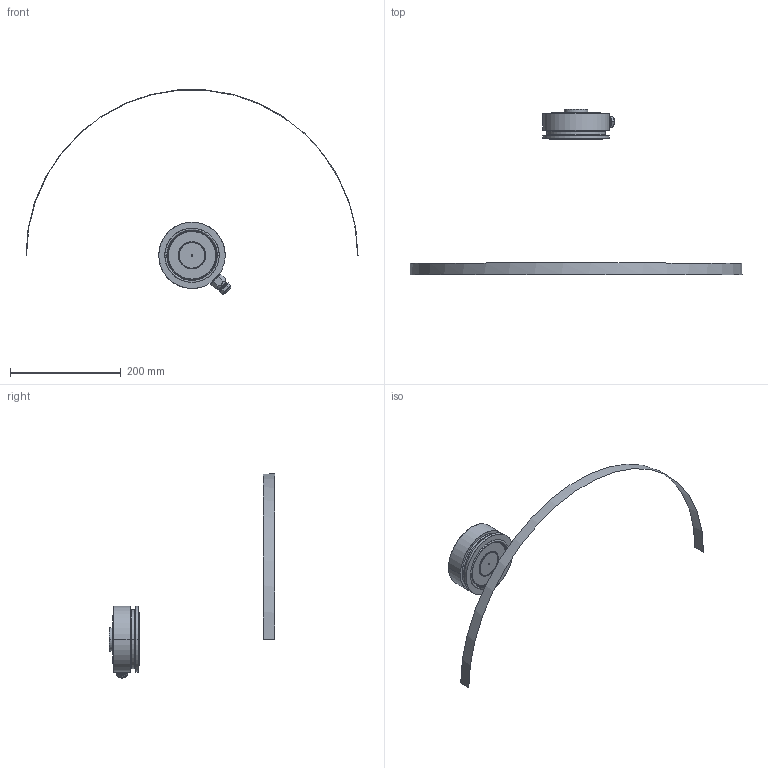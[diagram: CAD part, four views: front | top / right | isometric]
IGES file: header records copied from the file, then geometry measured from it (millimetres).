
Start section: SolidWorks IGES file using analytic representation for surfaces
Global section: file name: C:\0_Work\SolidWorks\HI HPLP Load Points\HI HP50 Load Sensor_44KLB-66KLB\Load Sensor_HI HP50-SS-44KLB-66KLB.IGS; native system: SolidWorks 2013; preprocessor: SolidWorks 2013; author: vach01; date: 130927.094230; units: millimetre
Bounding box: 600 x 300 x 369.39 mm (x, y, z)
Surface area: 95609.8 mm2 (no closed solid volume)
Topology: 0 solids, 0 shells, 182 faces, 4274 edges, 4273 vertices
Faces by surface type: revolution 94, bspline 88
